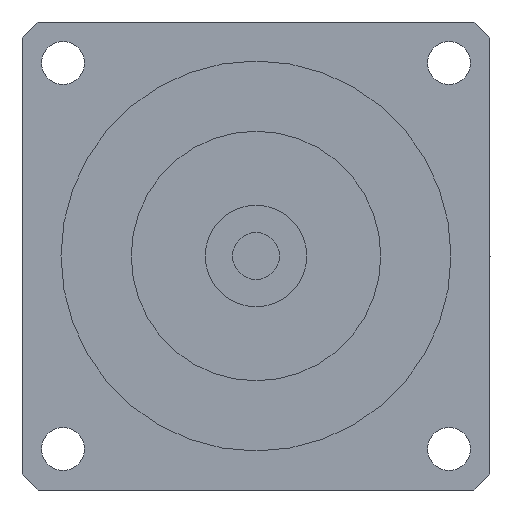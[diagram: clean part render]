
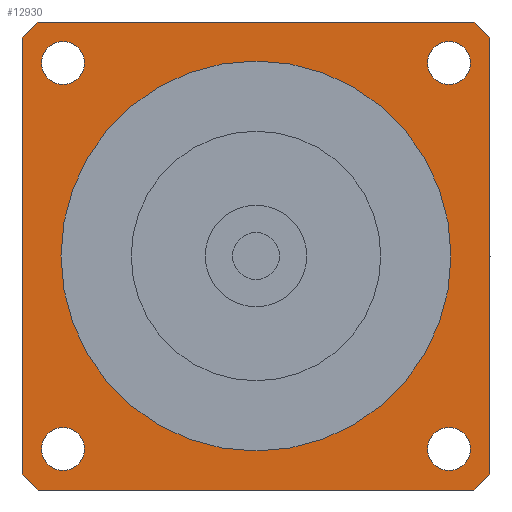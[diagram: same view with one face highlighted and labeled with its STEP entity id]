
A CAD part, left-side view. The second image highlights one B-rep face of the part: STEP entity #12930.
In plain terms, the highlighted planar face has unit normal (-1, 0, 0) as drawn and (0, 0, -1) by its records, which use the part's own axes.
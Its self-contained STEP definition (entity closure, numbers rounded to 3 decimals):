
#8680=CARTESIAN_POINT('',(30.,-27.946,-35.5));
#8690=VERTEX_POINT('',#8680);
#8740=CARTESIAN_POINT('',(0.,0.,
-35.5));
#8750=DIRECTION('',(0.,0.,-1.));
#8760=DIRECTION('',(0.,-1.,0.));
#8770=AXIS2_PLACEMENT_3D('',#8740,#8750,#8760);
#8780=CIRCLE('',#8770,41.);
#8790=CARTESIAN_POINT('',(27.946,-30.,-35.5));
#8800=VERTEX_POINT('',#8790);
#8810=EDGE_CURVE('',#8690,#8800,#8780,.T.);
#9210=CARTESIAN_POINT('',(-24.749,-21.999,-35.5));
#9220=VERTEX_POINT('',#9210);
#9250=CARTESIAN_POINT('',(-24.749,-24.749,-35.5));
#9260=DIRECTION('',(0.,0.,-1.));
#9270=DIRECTION('',(0.,-1.,0.));
#9280=AXIS2_PLACEMENT_3D('',#9250,#9260,#9270);
#9290=CIRCLE('',#9280,2.75);
#9300=CARTESIAN_POINT('',(-24.749,-27.499,-35.5));
#9310=VERTEX_POINT('',#9300);
#9320=EDGE_CURVE('',#9310,#9220,#9290,.T.);
#11440=CARTESIAN_POINT('',(0.,-25.,-35.5));
#11450=VERTEX_POINT('',#11440);
#11480=CARTESIAN_POINT('',(0.,0.,
-35.5));
#11490=DIRECTION('',(0.,0.,1.));
#11500=DIRECTION('',(1.,0.,0.));
#11510=AXIS2_PLACEMENT_3D('',#11480,#11490,#11500);
#11520=CIRCLE('',#11510,25.);
#11530=CARTESIAN_POINT('',(25.,0.,-35.5));
#11540=VERTEX_POINT('',#11530);
#11550=EDGE_CURVE('',#11450,#11540,#11520,.T.);
#11570=CARTESIAN_POINT('',(0.,25.,-35.5));
#11580=VERTEX_POINT('',#11570);
#11590=EDGE_CURVE('',#11540,#11580,#11520,.T.);
#11720=CARTESIAN_POINT('',(30.,-30.,-35.5));
#11730=DIRECTION('',(0.,0.,-1.));
#11740=DIRECTION('',(0.,-1.,0.));
#11750=AXIS2_PLACEMENT_3D('',#11720,#11730,#11740);
#11760=PLANE('',#11750);
#11770=CARTESIAN_POINT('',(-24.749,24.749,-35.5));
#11780=DIRECTION('',(0.,0.,-1.));
#11790=DIRECTION('',(-1.,0.,0.));
#11800=AXIS2_PLACEMENT_3D('',#11770,#11780,#11790);
#11810=CIRCLE('',#11800,2.75);
#11820=CARTESIAN_POINT('',(-27.499,24.749,-35.5));
#11830=VERTEX_POINT('',#11820);
#11840=CARTESIAN_POINT('',(-21.999,24.749,-35.5));
#11850=VERTEX_POINT('',#11840);
#11860=EDGE_CURVE('',#11830,#11850,#11810,.T.);
#11870=ORIENTED_EDGE('',*,*,#11860,.F.);
#11880=EDGE_CURVE('',#11850,#11830,#11810,.T.);
#11890=ORIENTED_EDGE('',*,*,#11880,.F.);
#11900=EDGE_LOOP('',(#11890,#11870));
#11910=FACE_BOUND('',#11900,.T.);
#11920=CARTESIAN_POINT('',(24.749,24.749,-35.5));
#11930=DIRECTION('',(0.,0.,-1.));
#11940=DIRECTION('',(0.,1.,0.));
#11950=AXIS2_PLACEMENT_3D('',#11920,#11930,#11940);
#11960=CIRCLE('',#11950,2.75);
#11970=CARTESIAN_POINT('',(24.749,27.499,-35.5));
#11980=VERTEX_POINT('',#11970);
#11990=CARTESIAN_POINT('',(24.749,21.999,-35.5));
#12000=VERTEX_POINT('',#11990);
#12010=EDGE_CURVE('',#11980,#12000,#11960,.T.);
#12020=ORIENTED_EDGE('',*,*,#12010,.F.);
#12030=EDGE_CURVE('',#12000,#11980,#11960,.T.);
#12040=ORIENTED_EDGE('',*,*,#12030,.F.);
#12050=EDGE_LOOP('',(#12040,#12020));
#12060=FACE_BOUND('',#12050,.T.);
#12070=CARTESIAN_POINT('',(24.749,-24.749,-35.5));
#12080=DIRECTION('',(0.,0.,-1.));
#12090=DIRECTION('',(1.,0.,0.));
#12100=AXIS2_PLACEMENT_3D('',#12070,#12080,#12090);
#12110=CIRCLE('',#12100,2.75);
#12120=CARTESIAN_POINT('',(27.499,-24.749,-35.5));
#12130=VERTEX_POINT('',#12120);
#12140=CARTESIAN_POINT('',(21.999,-24.749,-35.5));
#12150=VERTEX_POINT('',#12140);
#12160=EDGE_CURVE('',#12130,#12150,#12110,.T.);
#12170=ORIENTED_EDGE('',*,*,#12160,.F.);
#12180=EDGE_CURVE('',#12150,#12130,#12110,.T.);
#12190=ORIENTED_EDGE('',*,*,#12180,.F.);
#12200=EDGE_LOOP('',(#12190,#12170));
#12210=FACE_BOUND('',#12200,.T.);
#12220=EDGE_CURVE('',#11580,#11450,#11520,.T.);
#12230=ORIENTED_EDGE('',*,*,#12220,.T.);
#12240=ORIENTED_EDGE('',*,*,#11590,.T.);
#12250=ORIENTED_EDGE('',*,*,#11550,.T.);
#12260=EDGE_LOOP('',(#12250,#12240,#12230));
#12270=FACE_BOUND('',#12260,.T.);
#12280=CARTESIAN_POINT('',(30.,30.,-35.5));
#12290=DIRECTION('',(0.,-1.,0.));
#12300=VECTOR('',#12290,1000.);
#12310=LINE('',#12280,#12300);
#12320=CARTESIAN_POINT('',(30.,27.946,-35.5));
#12330=VERTEX_POINT('',#12320);
#12340=EDGE_CURVE('',#12330,#8690,#12310,.T.);
#12350=ORIENTED_EDGE('',*,*,#12340,.T.);
#12360=CARTESIAN_POINT('',(0.,0.,
-35.5));
#12370=DIRECTION('',(0.,0.,-1.));
#12380=DIRECTION('',(0.,-1.,0.));
#12390=AXIS2_PLACEMENT_3D('',#12360,#12370,#12380);
#12400=CIRCLE('',#12390,41.);
#12410=CARTESIAN_POINT('',(27.946,30.,-35.5));
#12420=VERTEX_POINT('',#12410);
#12430=EDGE_CURVE('',#12420,#12330,#12400,.T.);
#12440=ORIENTED_EDGE('',*,*,#12430,.T.);
#12450=CARTESIAN_POINT('',(-30.,30.,-35.5));
#12460=DIRECTION('',(1.,0.,0.));
#12470=VECTOR('',#12460,1000.);
#12480=LINE('',#12450,#12470);
#12490=CARTESIAN_POINT('',(-27.946,30.,-35.5));
#12500=VERTEX_POINT('',#12490);
#12510=EDGE_CURVE('',#12500,#12420,#12480,.T.);
#12520=ORIENTED_EDGE('',*,*,#12510,.T.);
#12530=CARTESIAN_POINT('',(0.,0.,
-35.5));
#12540=DIRECTION('',(0.,0.,-1.));
#12550=DIRECTION('',(0.,-1.,0.));
#12560=AXIS2_PLACEMENT_3D('',#12530,#12540,#12550);
#12570=CIRCLE('',#12560,41.);
#12580=CARTESIAN_POINT('',(-30.,27.946,-35.5));
#12590=VERTEX_POINT('',#12580);
#12600=EDGE_CURVE('',#12590,#12500,#12570,.T.);
#12610=ORIENTED_EDGE('',*,*,#12600,.T.);
#12620=CARTESIAN_POINT('',(-30.,-30.,-35.5));
#12630=DIRECTION('',(0.,1.,0.));
#12640=VECTOR('',#12630,1000.);
#12650=LINE('',#12620,#12640);
#12660=CARTESIAN_POINT('',(-30.,-27.946,-35.5));
#12670=VERTEX_POINT('',#12660);
#12680=EDGE_CURVE('',#12670,#12590,#12650,.T.);
#12690=ORIENTED_EDGE('',*,*,#12680,.T.);
#12700=CARTESIAN_POINT('',(0.,0.,
-35.5));
#12710=DIRECTION('',(0.,0.,-1.));
#12720=DIRECTION('',(0.,-1.,0.));
#12730=AXIS2_PLACEMENT_3D('',#12700,#12710,#12720);
#12740=CIRCLE('',#12730,41.);
#12750=CARTESIAN_POINT('',(-27.946,-30.,-35.5));
#12760=VERTEX_POINT('',#12750);
#12770=EDGE_CURVE('',#12760,#12670,#12740,.T.);
#12780=ORIENTED_EDGE('',*,*,#12770,.T.);
#12790=CARTESIAN_POINT('',(30.,-30.,-35.5));
#12800=DIRECTION('',(-1.,0.,0.));
#12810=VECTOR('',#12800,1000.);
#12820=LINE('',#12790,#12810);
#12830=EDGE_CURVE('',#8800,#12760,#12820,.T.);
#12840=ORIENTED_EDGE('',*,*,#12830,.T.);
#12850=ORIENTED_EDGE('',*,*,#8810,.T.);
#12860=EDGE_LOOP('',(#12850,#12840,#12780,#12690,#12610,#12520,#12440,
#12350));
#12870=FACE_OUTER_BOUND('',#12860,.T.);
#12880=ORIENTED_EDGE('',*,*,#9320,.F.);
#12890=EDGE_CURVE('',#9220,#9310,#9290,.T.);
#12900=ORIENTED_EDGE('',*,*,#12890,.F.);
#12910=EDGE_LOOP('',(#12900,#12880));
#12920=FACE_BOUND('',#12910,.T.);
#12930=ADVANCED_FACE('',(#11910,#12060,#12210,#12270,#12870,#12920),
#11760,.T.);
